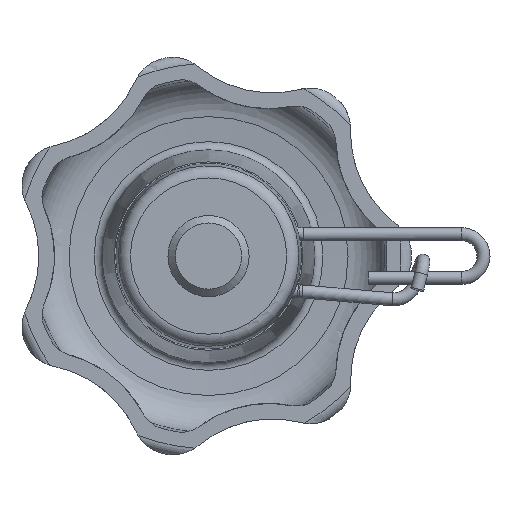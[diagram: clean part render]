
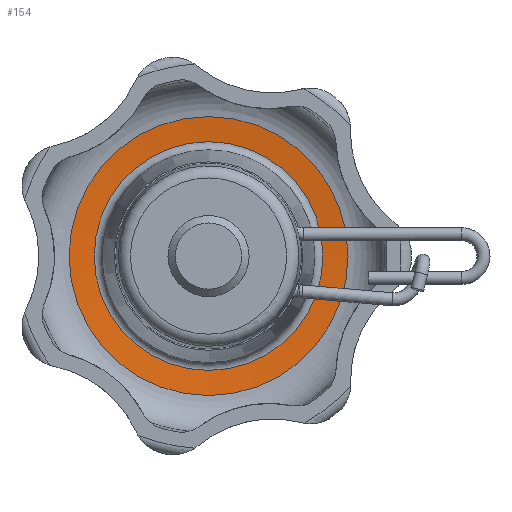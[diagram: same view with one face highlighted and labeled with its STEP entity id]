
A CAD part, front view. The second image highlights one B-rep face of the part: STEP entity #154.
In plain terms, the highlighted conical face has half-angle 85.017 degrees and reference radius 17.197 mm.
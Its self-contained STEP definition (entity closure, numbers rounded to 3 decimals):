
#154 = ADVANCED_FACE( '', ( #350, #351 ), #352, .F. );
#350 = FACE_BOUND( '', #565, .T. );
#351 = FACE_OUTER_BOUND( '', #566, .T. );
#352 = CONICAL_SURFACE( '', #567, 17.197, 1.484 );
#565 = EDGE_LOOP( '', ( #1178 ) );
#566 = EDGE_LOOP( '', ( #1179 ) );
#567 = AXIS2_PLACEMENT_3D( '', #1180, #1181, #1182 );
#1178 = ORIENTED_EDGE( '', *, *, #1527, .F. );
#1179 = ORIENTED_EDGE( '', *, *, #1519, .T. );
#1180 = CARTESIAN_POINT( '', ( 0., 24.65, 0. ) );
#1181 = DIRECTION( '', ( 0., -1., 0. ) );
#1182 = DIRECTION( '', ( 0., 0., -1. ) );
#1519 = EDGE_CURVE( '', #1881, #1881, #1882, .T. );
#1527 = EDGE_CURVE( '', #1893, #1893, #1894, .T. );
#1881 = VERTEX_POINT( '', #3091 );
#1882 = CIRCLE( '', #3092, 17.197 );
#1893 = VERTEX_POINT( '', #3202 );
#1894 = CIRCLE( '', #3203, 14.1 );
#3091 = CARTESIAN_POINT( '', ( 0., 24.65, -17.197 ) );
#3092 = AXIS2_PLACEMENT_3D( '', #3549, #3550, #3551 );
#3202 = CARTESIAN_POINT( '', ( 0., 24.92, -14.1 ) );
#3203 = AXIS2_PLACEMENT_3D( '', #3552, #3553, #3554 );
#3549 = CARTESIAN_POINT( '', ( 0., 24.65, 0. ) );
#3550 = DIRECTION( '', ( 0., -1., 0. ) );
#3551 = DIRECTION( '', ( 0., 0., -1. ) );
#3552 = CARTESIAN_POINT( '', ( 0., 24.92, 0. ) );
#3553 = DIRECTION( '', ( 0., -1., 0. ) );
#3554 = DIRECTION( '', ( 0., 0., -1. ) );
